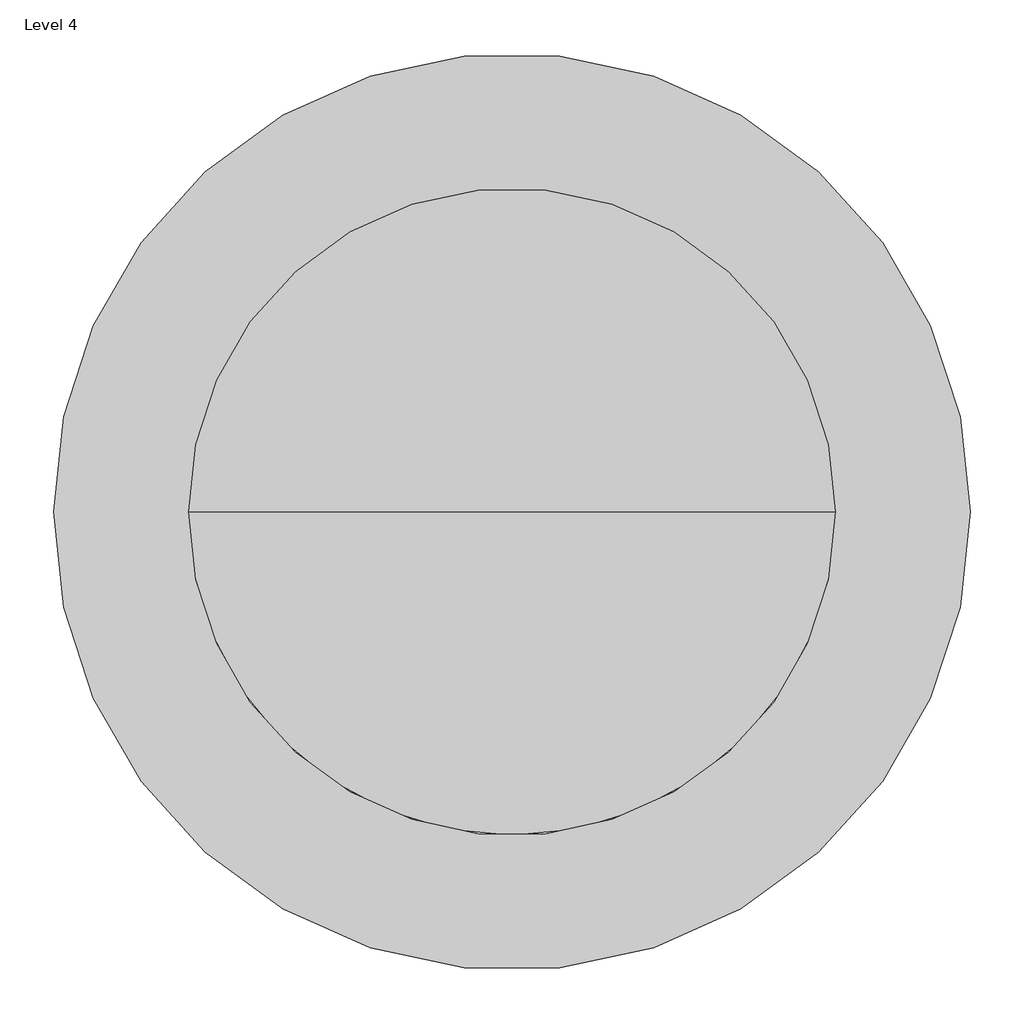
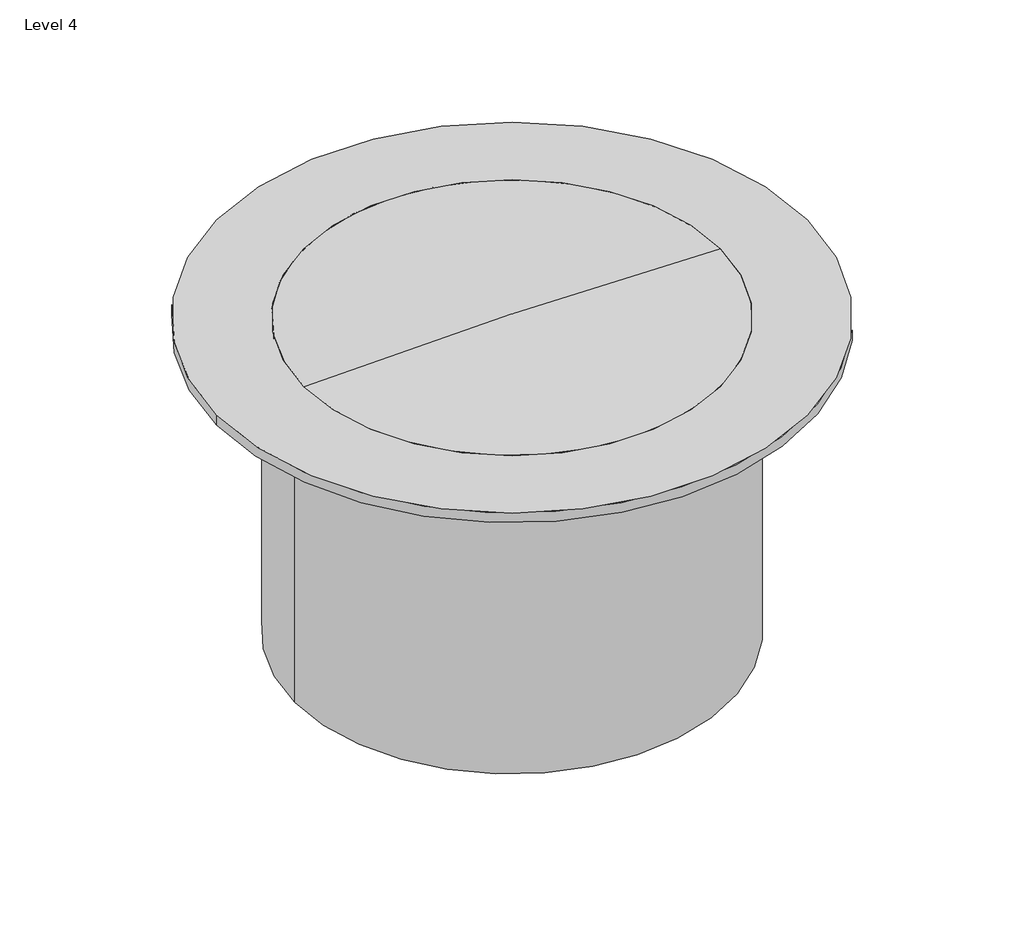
# One storey: 1 proxy.
"""IFC4 building model written with IfcOpenShell, lengths in millimetres."""

from ifc_helpers import new_model, si_unit, origin, place, context, project, spatial, transform, mapped, element, save
from components import specialty_equipment_5184973a

model = new_model("IFC4")

# Units and contexts
model_context = context("Model", 3, world=origin())
ifc_project = project(units=[si_unit("LENGTHUNIT", "METRE", prefix="MILLI")], contexts=[model_context])

# Site, building, storey
site = spatial("IfcSite", under=ifc_project)
building = spatial("IfcBuilding", under=site)
storey = spatial("IfcBuildingStorey", under=building, Name="Level 4", Elevation=2710.0)

# Proxy
placement = place(None, origin())
specialty_equipment_shape = specialty_equipment_5184973a(model_context)
element("IfcBuildingElementProxy", 1, Name="GRAF Tele Dome 600 Maxi : 600 Maxi", ObjectType="GRAF Tele Dome 600 Maxi : 600 Maxi", at=placement, inside=storey, context=model_context, shape_type="MappedRepresentation", body=[
    mapped(specialty_equipment_shape, transform((5829.8797995, -2550.9767982, 3010.0), x_axis=(1.0, 0.0, 0.0), y_axis=(0.0, 1.0, 0.0), z_axis=(0.0, 0.0, 1.0))),
])

save(model, "model.ifc")
